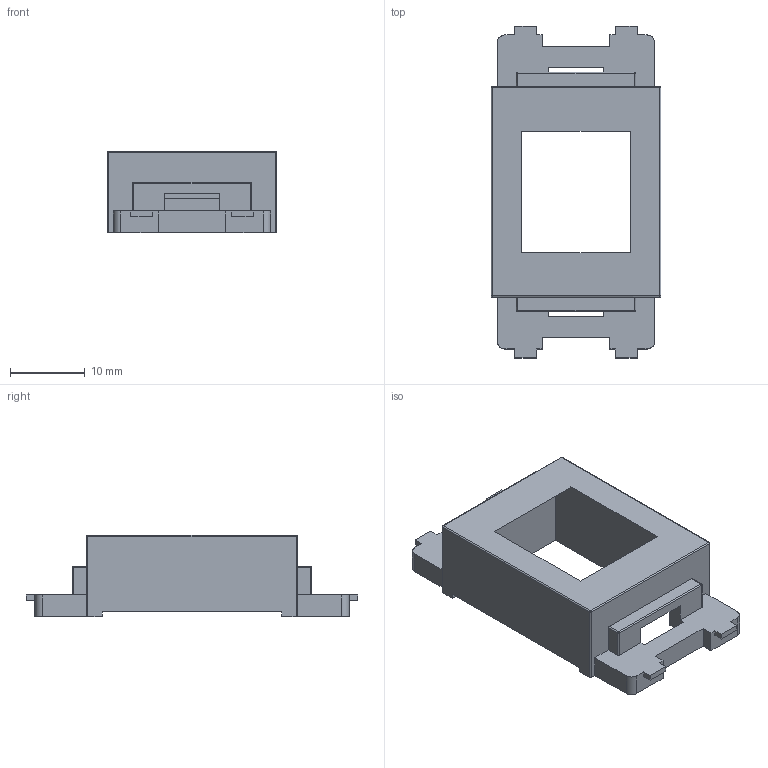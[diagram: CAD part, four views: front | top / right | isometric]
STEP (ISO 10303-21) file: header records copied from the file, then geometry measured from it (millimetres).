
FILE_DESCRIPTION( ('This file contains a STEP AP42 implementation' ,'as created by ZW3D STEP Interface translator.') ,'2;1' );
FILE_NAME( 'TB-020_SY-NWT-KV-xx_SD.stp' ,'26 320. 94943', (''), ('ZWCAD Software Co.'), 'Version 1.0', 'ZW3D to STEP translator', '' );
FILE_SCHEMA(('AUTOMOTIVE_DESIGN'));
Length unit declared in the file: millimetre
Products named in the file (2): 0; TB-020_SY-NWT-KV-xx_SD
Bounding box: 22.65 x 44.3 x 10.85 mm (x, y, z)
Volume: 3594 mm3; surface area: 4394 mm2
Topology: 1 solids, 1 shells, 128 faces, 361 edges, 232 vertices
Faces by surface type: bspline 128
Entity records: 5728 total; most frequent: CARTESIAN_POINT 3399, ORIENTED_EDGE 722, B_SPLINE_CURVE_WITH_KNOTS 361, EDGE_CURVE 361, VERTEX_POINT 232, EDGE_LOOP 131, FACE_OUTER_BOUND 128, ADVANCED_FACE 128
